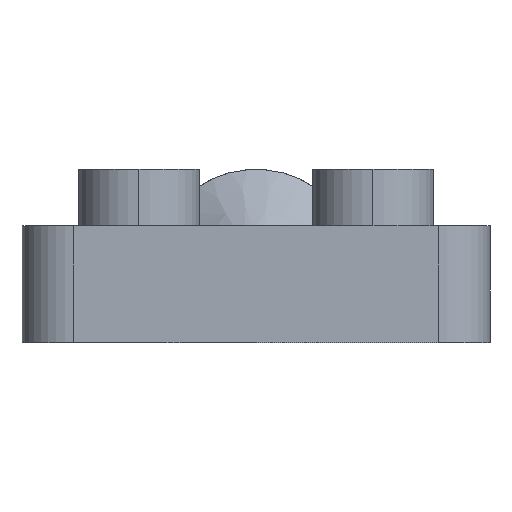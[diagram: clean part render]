
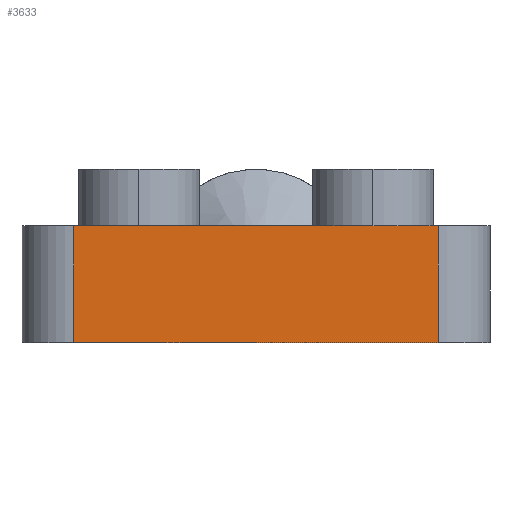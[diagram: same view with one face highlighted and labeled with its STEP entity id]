
A CAD part, left-side view. The second image highlights one B-rep face of the part: STEP entity #3633.
In plain terms, the highlighted planar face has unit normal (-1, 0, 0).
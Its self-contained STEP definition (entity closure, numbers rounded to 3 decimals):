
#236 = LINE ( 'NONE', #237, #238 ) ;
#237 = CARTESIAN_POINT ( 'NONE',  ( -22.5, -21., 0. ) ) ;
#238 = VECTOR ( 'NONE', #239, 1000. ) ;
#239 = DIRECTION ( 'NONE',  ( 0., -1., 0. ) ) ;
#1022 = LINE ( 'NONE', #1023, #1024 ) ;
#1023 = CARTESIAN_POINT ( 'NONE',  ( -22.5, -21., 13.5 ) ) ;
#1024 = VECTOR ( 'NONE', #1025, 1000. ) ;
#1025 = DIRECTION ( 'NONE',  ( 0., 0., -1. ) ) ;
#1512 = CARTESIAN_POINT ( 'NONE',  ( -22.5, 21., 13.5 ) ) ;
#2431 = LINE ( 'NONE', #2434, #2435 ) ;
#2434 = CARTESIAN_POINT ( 'NONE',  ( -22.5, 21., 13.5 ) ) ;
#2435 = VECTOR ( 'NONE', #2436, 1000. ) ;
#2436 = DIRECTION ( 'NONE',  ( 0., 0., -1. ) ) ;
#2538 = CARTESIAN_POINT ( 'NONE',  ( -22.5, -21., 0. ) ) ;
#2960 = ORIENTED_EDGE ( 'NONE', *, *, #3348, .T. ) ;
#3076 = VERTEX_POINT ( 'NONE', #1512 ) ;
#3295 = EDGE_LOOP ( 'NONE', ( #3954, #4058, #4585, #2960 ) ) ;
#3348 = EDGE_CURVE ( 'NONE', #3076, #3629, #2431, .T. ) ;
#3629 = VERTEX_POINT ( 'NONE', #4723 ) ;
#3633 = ADVANCED_FACE ( 'NONE', ( #4724 ), #4725, .F. ) ;
#3725 = EDGE_CURVE ( 'NONE', #3076, #3737, #5266, .T. ) ;
#3737 = VERTEX_POINT ( 'NONE', #5294 ) ;
#3954 = ORIENTED_EDGE ( 'NONE', *, *, #3964, .T. ) ;
#3964 = EDGE_CURVE ( 'NONE', #3629, #4361, #236, .T. ) ;
#4058 = ORIENTED_EDGE ( 'NONE', *, *, #4062, .F. ) ;
#4062 = EDGE_CURVE ( 'NONE', #3737, #4361, #1022, .T. ) ;
#4361 = VERTEX_POINT ( 'NONE', #2538 ) ;
#4585 = ORIENTED_EDGE ( 'NONE', *, *, #3725, .F. ) ;
#4723 = CARTESIAN_POINT ( 'NONE',  ( -22.5, 21., 0. ) ) ;
#4724 = FACE_OUTER_BOUND ( 'NONE', #3295, .T. ) ;
#4725 = PLANE ( 'NONE',  #4726 ) ;
#4726 = AXIS2_PLACEMENT_3D ( 'NONE', #4727, #4728, #4729 ) ;
#4727 = CARTESIAN_POINT ( 'NONE',  ( -22.5, -21., 13.5 ) ) ;
#4728 = DIRECTION ( 'NONE',  ( 1., 0., 0. ) ) ;
#4729 = DIRECTION ( 'NONE',  ( 0., 0., -1. ) ) ;
#5266 = LINE ( 'NONE', #5267, #5268 ) ;
#5267 = CARTESIAN_POINT ( 'NONE',  ( -22.5, -21., 13.5 ) ) ;
#5268 = VECTOR ( 'NONE', #5269, 1000. ) ;
#5269 = DIRECTION ( 'NONE',  ( 0., -1., 0. ) ) ;
#5294 = CARTESIAN_POINT ( 'NONE',  ( -22.5, -21., 13.5 ) ) ;
